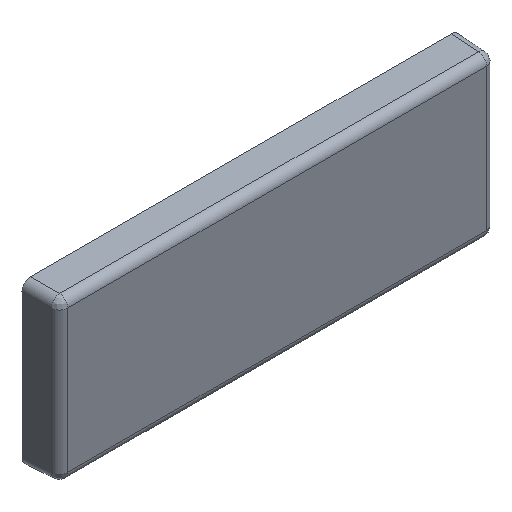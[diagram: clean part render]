
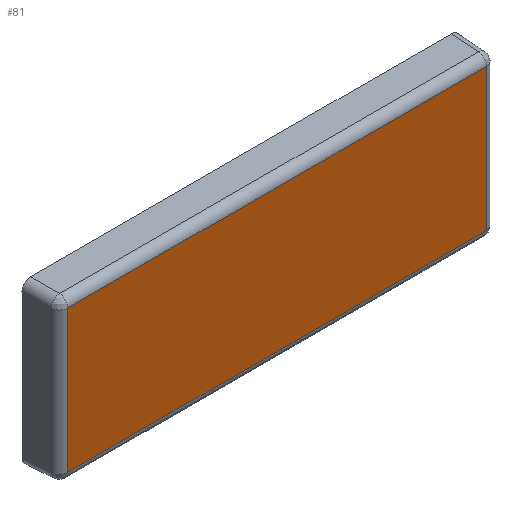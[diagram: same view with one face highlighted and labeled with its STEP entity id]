
A CAD part, isometric view. The second image highlights one B-rep face of the part: STEP entity #81.
In plain terms, the highlighted planar face has unit normal (0, -1, 0).
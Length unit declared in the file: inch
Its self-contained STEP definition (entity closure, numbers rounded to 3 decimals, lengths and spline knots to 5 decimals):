
#81 = ADVANCED_FACE ( 'NONE', ( #240 ), #284, .F. ) ;
#82 = EDGE_LOOP ( 'NONE', ( #202, #205, #207, #208 ) ) ;
#103 = VERTEX_POINT ( 'NONE', #420 ) ;
#105 = EDGE_CURVE ( 'NONE', #199, #103, #419, .T. ) ;
#199 = VERTEX_POINT ( 'NONE', #651 ) ;
#202 = ORIENTED_EDGE ( 'NONE', *, *, #203, .F. ) ;
#203 = EDGE_CURVE ( 'NONE', #204, #103, #645, .T. ) ;
#204 = VERTEX_POINT ( 'NONE', #641 ) ;
#205 = ORIENTED_EDGE ( 'NONE', *, *, #206, .F. ) ;
#206 = EDGE_CURVE ( 'NONE', #235, #204, #640, .T. ) ;
#207 = ORIENTED_EDGE ( 'NONE', *, *, #234, .T. ) ;
#208 = ORIENTED_EDGE ( 'NONE', *, *, #105, .T. ) ;
#234 = EDGE_CURVE ( 'NONE', #235, #199, #554, .T. ) ;
#235 = VERTEX_POINT ( 'NONE', #547 ) ;
#240 = FACE_OUTER_BOUND ( 'NONE', #82, .T. ) ;
#283 = CARTESIAN_POINT ( 'NONE',  ( -6.17121, -1.07, -2.09621 ) ) ;
#284 = PLANE ( 'NONE',  #353 ) ;
#351 = DIRECTION ( 'NONE',  ( 0., 0., 1. ) ) ;
#352 = DIRECTION ( 'NONE',  ( 0., 1., 0. ) ) ;
#353 = AXIS2_PLACEMENT_3D ( 'NONE', #283, #352, #351 ) ;
#416 = DIRECTION ( 'NONE',  ( 0., 0., 1. ) ) ;
#417 = VECTOR ( 'NONE', #416, 39.37008 ) ;
#418 = CARTESIAN_POINT ( 'NONE',  ( 6.17121, -1.07, 0. ) ) ;
#419 = LINE ( 'NONE', #418, #417 ) ;
#420 = CARTESIAN_POINT ( 'NONE',  ( 6.17121, -1.07, 2.09621 ) ) ;
#547 = CARTESIAN_POINT ( 'NONE',  ( -6.17121, -1.07, -2.09621 ) ) ;
#548 = DIRECTION ( 'NONE',  ( 1., 0., 0. ) ) ;
#549 = VECTOR ( 'NONE', #548, 39.37008 ) ;
#550 = CARTESIAN_POINT ( 'NONE',  ( 0., -1.07, -2.09621 ) ) ;
#554 = LINE ( 'NONE', #550, #549 ) ;
#637 = DIRECTION ( 'NONE',  ( 0., 0., 1. ) ) ;
#638 = VECTOR ( 'NONE', #637, 39.37008 ) ;
#639 = CARTESIAN_POINT ( 'NONE',  ( -6.17121, -1.07, 0. ) ) ;
#640 = LINE ( 'NONE', #639, #638 ) ;
#641 = CARTESIAN_POINT ( 'NONE',  ( -6.17121, -1.07, 2.09621 ) ) ;
#642 = DIRECTION ( 'NONE',  ( 1., 0., 0. ) ) ;
#643 = VECTOR ( 'NONE', #642, 39.37008 ) ;
#644 = CARTESIAN_POINT ( 'NONE',  ( 0., -1.07, 2.09621 ) ) ;
#645 = LINE ( 'NONE', #644, #643 ) ;
#651 = CARTESIAN_POINT ( 'NONE',  ( 6.17121, -1.07, -2.09621 ) ) ;
